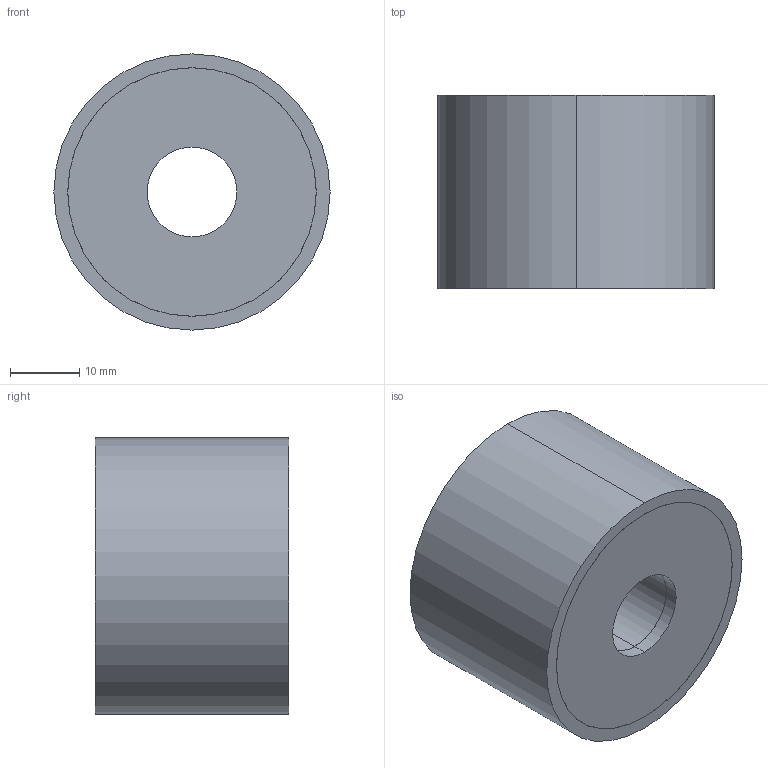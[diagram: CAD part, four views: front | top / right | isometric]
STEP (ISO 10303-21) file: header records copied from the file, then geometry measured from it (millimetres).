
FILE_DESCRIPTION (( 'STEP AP214' ), '1' );
FILE_NAME ('351-40-28-13-DD-55.step', '2025-07-23T10:12:44', ( '' ), ( '' ), 'SwSTEP 2.0', 'SolidWorks 2022', '' );
FILE_SCHEMA (( 'AUTOMOTIVE_DESIGN' ));
Length unit declared in the file: millimetre
Products named in the file (1): 351-40-28-13-DD-55
Bounding box: 40 x 28 x 40 mm (x, y, z)
Volume: 31469.3 mm3; surface area: 6916.1 mm2
Topology: 1 solids, 1 shells, 30 faces, 60 edges, 40 vertices
Faces by surface type: cylinder 20, plane 10
Entity records: 919 total; most frequent: DIRECTION 162, CARTESIAN_POINT 131, ORIENTED_EDGE 120, AXIS2_PLACEMENT_3D 71, EDGE_CURVE 60, EDGE_LOOP 40, VERTEX_POINT 40, CIRCLE 40
